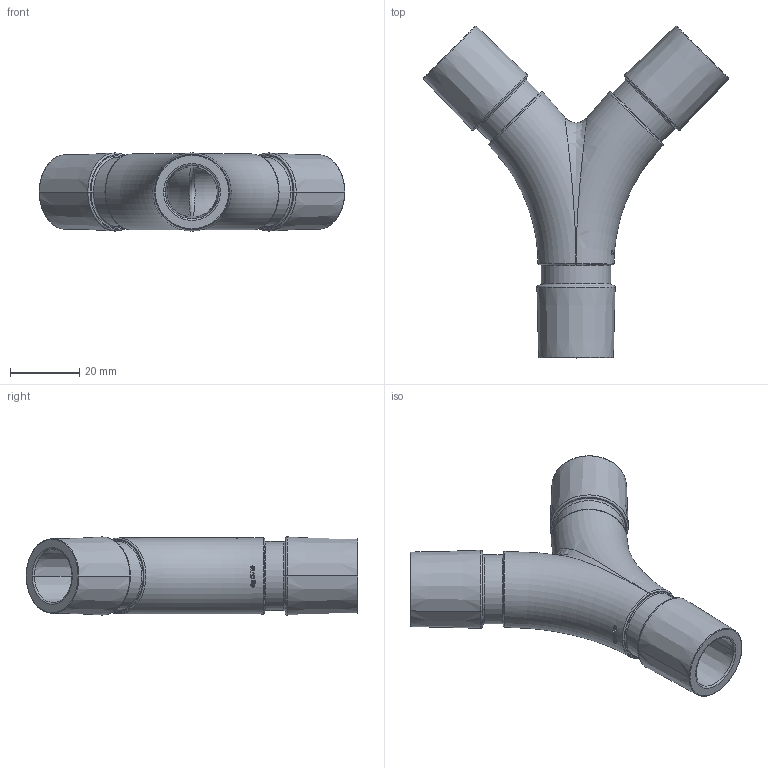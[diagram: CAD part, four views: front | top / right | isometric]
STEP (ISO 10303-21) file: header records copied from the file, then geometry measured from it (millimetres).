
FILE_DESCRIPTION(/* description */ (''),/* implementation_level */ '2;1');
FILE_NAME(/* name */ 'ISO 5356 Splitter M22 F15_GgCV19.stp',/* time_stamp */ '2020-03-27T17:14:54+01:00',/* author */ (''),/* organization */ (''),/* preprocessor_version */ 'ST-DEVELOPER v16.7',/* originating_system */ 'SIEMENS PLM Software NX 12.0',/* authorisation */ '');
FILE_SCHEMA (('AUTOMOTIVE_DESIGN { 1 0 10303 214 3 1 1 1 }'));
Length unit declared in the file: millimetre
Products named in the file (1): ISO5356 - TGgCV19_Pieza_22M_ok
Bounding box: 88.46 x 96.08 x 22.64 mm (x, y, z)
Volume: 29514.1 mm3; surface area: 17841.1 mm2
Topology: 1 solids, 1 shells, 203 faces, 496 edges, 315 vertices
Faces by surface type: plane 98, torus 43, extrusion 28, bspline 16, cone 12, cylinder 6
Full cylindrical faces by diameter (mm): 14.67 x3, 20 x3
Entity records: 8621 total; most frequent: CARTESIAN_POINT 4211, ORIENTED_EDGE 986, DIRECTION 720, EDGE_CURVE 493, VERTEX_POINT 333, AXIS2_PLACEMENT_3D 277, B_SPLINE_CURVE_WITH_KNOTS 266, EDGE_LOOP 248
